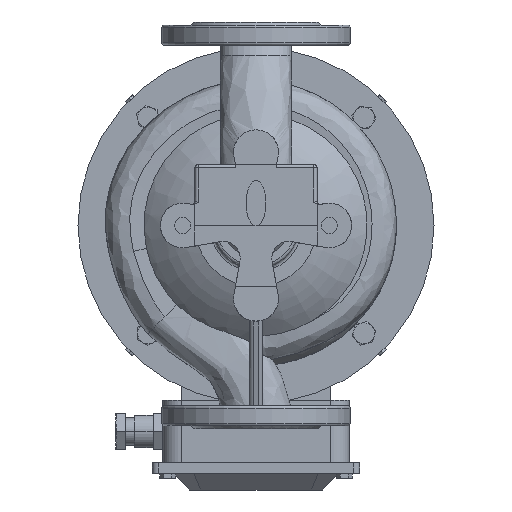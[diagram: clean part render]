
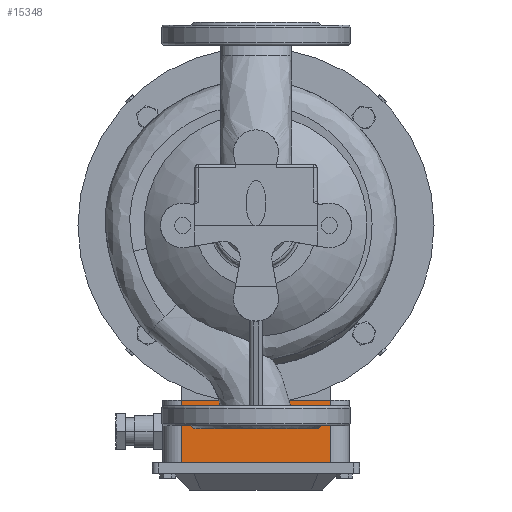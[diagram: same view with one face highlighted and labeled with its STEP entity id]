
A CAD part, front view. The second image highlights one B-rep face of the part: STEP entity #15348.
In plain terms, the highlighted planar face has unit normal (0, -1, 0).
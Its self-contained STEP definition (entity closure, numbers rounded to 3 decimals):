
#3233 = CARTESIAN_POINT ( 'NONE',  ( -73.44, 336.119, -233. ) ) ;
#3247 = DIRECTION ( 'NONE',  ( -1., 0., 0. ) ) ;
#3792 = VECTOR ( 'NONE', #59121, 1000. ) ;
#5126 = VERTEX_POINT ( 'NONE', #65648 ) ;
#5304 = LINE ( 'NONE', #57777, #36229 ) ;
#8741 = DIRECTION ( 'NONE',  ( 0., 0., -1. ) ) ;
#8755 = LINE ( 'NONE', #61596, #54147 ) ;
#9197 = ORIENTED_EDGE ( 'NONE', *, *, #65872, .F. ) ;
#10687 = ORIENTED_EDGE ( 'NONE', *, *, #46182, .T. ) ;
#14220 = VECTOR ( 'NONE', #8741, 1000. ) ;
#15348 = ADVANCED_FACE ( 'NONE', ( #18617 ), #19275, .F. ) ;
#18617 = FACE_OUTER_BOUND ( 'NONE', #49529, .T. ) ;
#19275 = PLANE ( 'NONE',  #37374 ) ;
#20376 = CARTESIAN_POINT ( 'NONE',  ( -73.44, 336.119, -172. ) ) ;
#27003 = LINE ( 'NONE', #37709, #3792 ) ;
#27535 = ORIENTED_EDGE ( 'NONE', *, *, #42778, .T. ) ;
#36229 = VECTOR ( 'NONE', #63657, 1000. ) ;
#36391 = CARTESIAN_POINT ( 'NONE',  ( -73.44, 336.119, -233. ) ) ;
#37374 = AXIS2_PLACEMENT_3D ( 'NONE', #66557, #56562, #65923 ) ;
#37709 = CARTESIAN_POINT ( 'NONE',  ( 91.8, 336.119, -172. ) ) ;
#42778 = EDGE_CURVE ( 'NONE', #5126, #49953, #27003, .T. ) ;
#46182 = EDGE_CURVE ( 'NONE', #67347, #5126, #5304, .T. ) ;
#46992 = VERTEX_POINT ( 'NONE', #36391 ) ;
#49529 = EDGE_LOOP ( 'NONE', ( #27535, #62955, #9197, #10687 ) ) ;
#49953 = VERTEX_POINT ( 'NONE', #20376 ) ;
#54147 = VECTOR ( 'NONE', #3247, 1000. ) ;
#55060 = CARTESIAN_POINT ( 'NONE',  ( 73.44, 336.119, -233. ) ) ;
#56562 = DIRECTION ( 'NONE',  ( 0., 1., 0. ) ) ;
#57777 = CARTESIAN_POINT ( 'NONE',  ( 73.44, 336.119, -233. ) ) ;
#59121 = DIRECTION ( 'NONE',  ( -1., 0., 0. ) ) ;
#61596 = CARTESIAN_POINT ( 'NONE',  ( 91.8, 336.119, -233. ) ) ;
#62955 = ORIENTED_EDGE ( 'NONE', *, *, #64172, .T. ) ;
#63657 = DIRECTION ( 'NONE',  ( 0., 0., 1. ) ) ;
#64172 = EDGE_CURVE ( 'NONE', #49953, #46992, #64818, .T. ) ;
#64818 = LINE ( 'NONE', #3233, #14220 ) ;
#65648 = CARTESIAN_POINT ( 'NONE',  ( 73.44, 336.119, -172. ) ) ;
#65872 = EDGE_CURVE ( 'NONE', #67347, #46992, #8755, .T. ) ;
#65923 = DIRECTION ( 'NONE',  ( 0., 0., 1. ) ) ;
#66557 = CARTESIAN_POINT ( 'NONE',  ( 91.8, 336.119, -233. ) ) ;
#67347 = VERTEX_POINT ( 'NONE', #55060 ) ;
